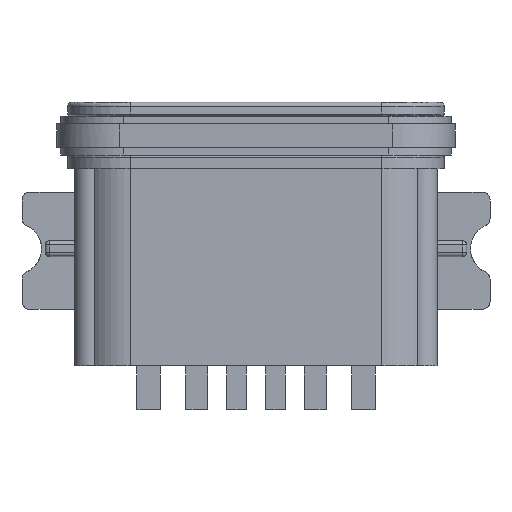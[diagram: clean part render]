
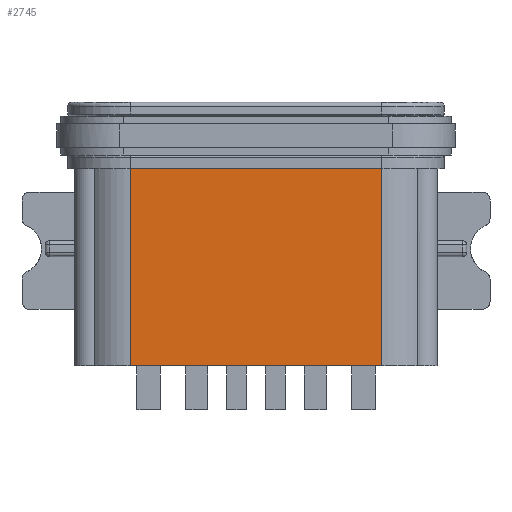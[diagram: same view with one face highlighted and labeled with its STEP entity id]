
A CAD part, front view. The second image highlights one B-rep face of the part: STEP entity #2745.
In plain terms, the highlighted planar face has unit normal (0, -1, 0).
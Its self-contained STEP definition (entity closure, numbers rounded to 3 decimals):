
#2115=CARTESIAN_POINT('',(6.287,-12.218,-8.629));
#2116=VERTEX_POINT('',#2115);
#2126=CARTESIAN_POINT('',(12.727,-12.218,-8.629));
#2127=VERTEX_POINT('',#2126);
#2128=CARTESIAN_POINT('',(6.287,-12.218,-8.629));
#2129=DIRECTION('',(1.0,0.0,0.));
#2130=VECTOR('',#2129,1.0);
#2131=LINE('',#2128,#2130);
#2132=EDGE_CURVE('no 3629',#2116,#2127,#2131,.T.);
#2601=CARTESIAN_POINT('',(12.727,-12.218,-13.679));
#2602=VERTEX_POINT('',#2601);
#2612=CARTESIAN_POINT('',(6.287,-12.218,-13.679));
#2613=VERTEX_POINT('',#2612);
#2614=CARTESIAN_POINT('',(12.727,-12.218,-13.679));
#2615=DIRECTION('',(-1.0,0.0,0.0));
#2616=VECTOR('',#2615,1.0);
#2617=LINE('',#2614,#2616);
#2618=EDGE_CURVE('no 7726',#2602,#2613,#2617,.T.);
#2703=CARTESIAN_POINT('',(6.287,-12.218,-8.629));
#2704=DIRECTION('',(0.,0.0,-1.0));
#2705=VECTOR('',#2704,1.0);
#2706=LINE('',#2703,#2705);
#2707=EDGE_CURVE('no 16044',#2116,#2613,#2706,.T.);
#2729=ORIENTED_EDGE('no 9786',*,*,#2618,.F.);
#2730=CARTESIAN_POINT('',(12.727,-12.218,-13.679));
#2731=DIRECTION('',(0.,-0.0,1.0));
#2732=VECTOR('',#2731,1.0);
#2733=LINE('',#2730,#2732);
#2734=EDGE_CURVE('no 13316',#2602,#2127,#2733,.T.);
#2735=ORIENTED_EDGE('no 21029',*,*,#2734,.T.);
#2736=ORIENTED_EDGE('no 14714',*,*,#2132,.F.);
#2737=ORIENTED_EDGE('no 8001',*,*,#2707,.T.);
#2738=EDGE_LOOP('',(#2729,#2735,#2736,#2737));
#2739=FACE_OUTER_BOUND('',#2738,.T.);
#2740=CARTESIAN_POINT('',(12.727,-12.218,-8.629));
#2741=DIRECTION('',(-0.0,-1.0,-0.0));
#2742=DIRECTION('',(-1.0,0.0,0.0));
#2743=AXIS2_PLACEMENT_3D('',#2740,#2741,#2742);
#2744=PLANE('',#2743);
#2745=ADVANCED_FACE('no 21394',(#2739),#2744,.T.);
